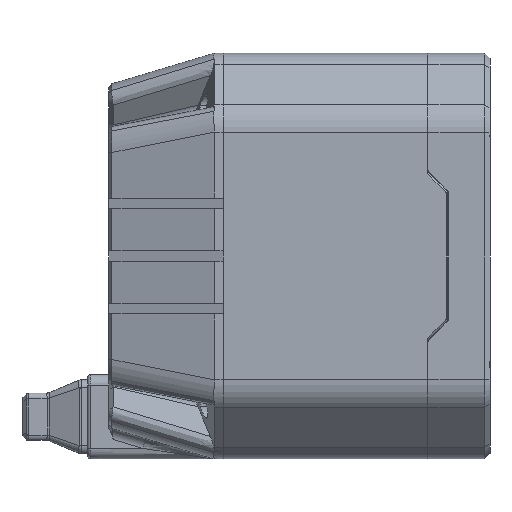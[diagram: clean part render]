
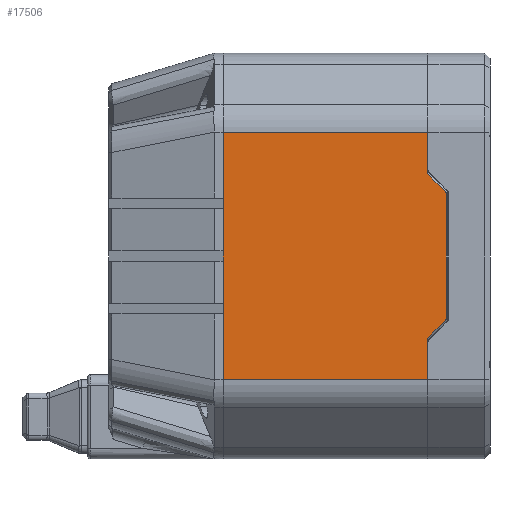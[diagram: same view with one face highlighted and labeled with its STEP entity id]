
A CAD part, front view. The second image highlights one B-rep face of the part: STEP entity #17506.
In plain terms, the highlighted planar face has unit normal (0, -1, 0).
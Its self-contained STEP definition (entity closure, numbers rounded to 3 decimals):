
#14069=DIRECTION('',(0.,0.,1.));
#14070=VECTOR('',#14069,46.787);
#14071=CARTESIAN_POINT('',(-1.3,-38.5,-23.393));
#14072=LINE('',#14071,#14070);
#14228=DIRECTION('',(0.,0.,1.));
#14229=VECTOR('',#14228,7.818);
#14230=CARTESIAN_POINT('',(37.5,-38.5,-23.393));
#14231=LINE('',#14230,#14229);
#14324=DIRECTION('',(0.,0.,1.));
#14325=VECTOR('',#14324,7.818);
#14326=CARTESIAN_POINT('',(37.5,-38.5,15.576));
#14327=LINE('',#14326,#14325);
#14736=DIRECTION('',(-0.707,0.,0.707));
#14737=VECTOR('',#14736,4.66);
#14738=CARTESIAN_POINT('',(40.795,-38.5,12.281));
#14739=LINE('',#14738,#14737);
#14740=CARTESIAN_POINT('',(40.3,-38.5,11.786));
#14741=DIRECTION('',(0.,-1.,0.));
#14742=DIRECTION('',(1.,0.,0.));
#14743=AXIS2_PLACEMENT_3D('',#14740,#14741,#14742);
#14745=DIRECTION('',(0.,0.,1.));
#14746=VECTOR('',#14745,23.572);
#14747=CARTESIAN_POINT('',(41.,-38.5,-11.786));
#14748=LINE('',#14747,#14746);
#14749=CARTESIAN_POINT('',(40.3,-38.5,-11.786));
#14750=DIRECTION('',(0.,-1.,0.));
#14751=DIRECTION('',(0.707,0.,-0.707));
#14752=AXIS2_PLACEMENT_3D('',#14749,#14750,#14751);
#14754=DIRECTION('',(0.707,0.,0.707));
#14755=VECTOR('',#14754,4.66);
#14756=CARTESIAN_POINT('',(37.5,-38.5,-15.576));
#14757=LINE('',#14756,#14755);
#14758=DIRECTION('',(-1.,0.,0.));
#14759=VECTOR('',#14758,38.8);
#14760=CARTESIAN_POINT('',(37.5,-38.5,-23.393));
#14761=LINE('',#14760,#14759);
#14998=DIRECTION('',(-1.,0.,0.));
#14999=VECTOR('',#14998,38.8);
#15000=CARTESIAN_POINT('',(37.5,-38.5,23.393));
#15001=LINE('',#15000,#14999);
#15847=CARTESIAN_POINT('',(-1.3,-38.5,-23.393));
#15848=VERTEX_POINT('',#15847);
#15849=CARTESIAN_POINT('',(-1.3,-38.5,23.393));
#15850=VERTEX_POINT('',#15849);
#15973=CARTESIAN_POINT('',(37.5,-38.5,-23.393));
#15974=VERTEX_POINT('',#15973);
#15975=CARTESIAN_POINT('',(37.5,-38.5,23.393));
#15976=VERTEX_POINT('',#15975);
#16333=CARTESIAN_POINT('',(40.795,-38.5,12.281));
#16334=CARTESIAN_POINT('',(37.5,-38.5,15.576));
#16335=VERTEX_POINT('',#16333);
#16336=VERTEX_POINT('',#16334);
#16337=CARTESIAN_POINT('',(41.,-38.5,11.786));
#16338=VERTEX_POINT('',#16337);
#16343=CARTESIAN_POINT('',(41.,-38.5,-11.786));
#16344=VERTEX_POINT('',#16343);
#16347=CARTESIAN_POINT('',(40.795,-38.5,-12.281));
#16348=VERTEX_POINT('',#16347);
#16351=CARTESIAN_POINT('',(37.5,-38.5,-15.576));
#16352=VERTEX_POINT('',#16351);
#17483=CARTESIAN_POINT('',(0.,-38.5,26.5));
#17484=DIRECTION('',(0.,-1.,0.));
#17485=DIRECTION('',(0.,0.,-1.));
#17486=AXIS2_PLACEMENT_3D('',#17483,#17484,#17485);
#17487=PLANE('',#17486);
#17489=ORIENTED_EDGE('',*,*,#17488,.F.);
#17490=ORIENTED_EDGE('',*,*,#17473,.F.);
#17492=ORIENTED_EDGE('',*,*,#17491,.F.);
#17494=ORIENTED_EDGE('',*,*,#17493,.F.);
#17496=ORIENTED_EDGE('',*,*,#17495,.F.);
#17497=ORIENTED_EDGE('',*,*,#16878,.F.);
#17499=ORIENTED_EDGE('',*,*,#17498,.T.);
#17500=ORIENTED_EDGE('',*,*,#16758,.T.);
#17502=ORIENTED_EDGE('',*,*,#17501,.F.);
#17503=ORIENTED_EDGE('',*,*,#16934,.F.);
#17504=EDGE_LOOP('',(#17489,#17490,#17492,#17494,#17496,#17497,#17499,#17500,
#17502,#17503));
#17505=FACE_OUTER_BOUND('',#17504,.F.);
#17506=ADVANCED_FACE('',(#17505),#17487,.T.);
#14744=CIRCLE('',#14743,0.7);
#14753=CIRCLE('',#14752,0.7);
#16758=EDGE_CURVE('',#15848,#15850,#14072,.T.);
#16878=EDGE_CURVE('',#15974,#16352,#14231,.T.);
#16934=EDGE_CURVE('',#16336,#15976,#14327,.T.);
#17473=EDGE_CURVE('',#16338,#16335,#14744,.T.);
#17488=EDGE_CURVE('',#16335,#16336,#14739,.T.);
#17491=EDGE_CURVE('',#16344,#16338,#14748,.T.);
#17493=EDGE_CURVE('',#16348,#16344,#14753,.T.);
#17495=EDGE_CURVE('',#16352,#16348,#14757,.T.);
#17498=EDGE_CURVE('',#15974,#15848,#14761,.T.);
#17501=EDGE_CURVE('',#15976,#15850,#15001,.T.);
